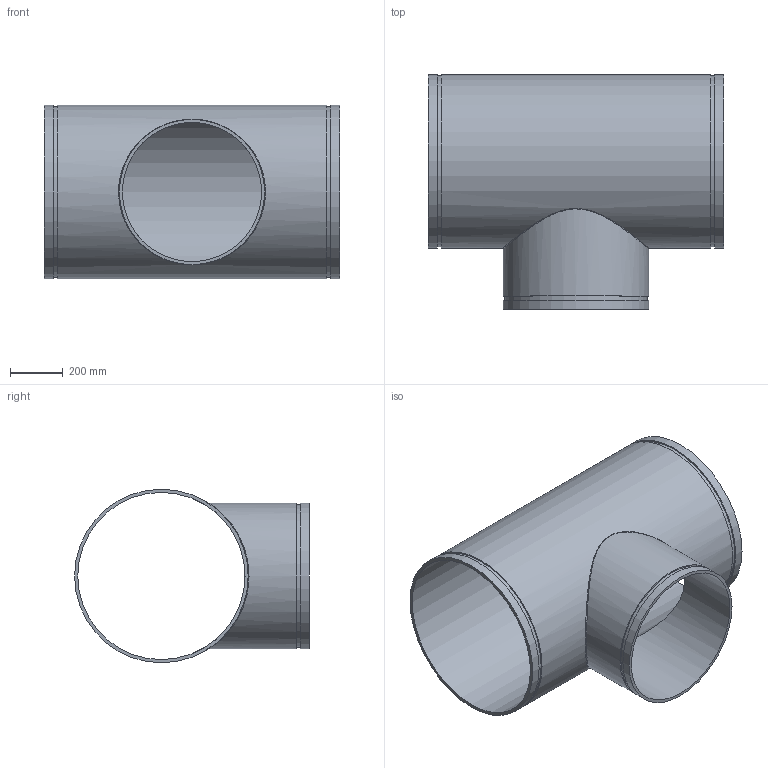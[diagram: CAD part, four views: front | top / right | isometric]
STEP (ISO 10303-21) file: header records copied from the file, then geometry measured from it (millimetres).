
FILE_DESCRIPTION(/* description */ ('VIC REDUCING TEE No 25-C','CAx-IF Rec.Pracs.---Representation and Presentation of Product Manufacturing Information (PMI)---4.0---2014-10-13'),/* implementation_level */ '2;1');
FILE_NAME(/* name */ 'C:\Users\Vjadhav\AppData\Roaming\Autodesk\ApplicationPlugins\Back Up\Victaulic_AWWA_Tee Reducing_No 25-C (DRG)\Victaulic_AWWA_Tee Reducing_No 25-C (DRG)_24.0x20.0 (600x500).stp',/* time_stamp */ '2020-08-18T18:19:05+06:00',/* author */ ('CORINNE GRAY'),/* organization */ ('Victaulic'),/* preprocessor_version */ 'ST-DEVELOPER v17.2',/* originating_system */ 'Autodesk Inventor 2019',/* authorisation */ '');
FILE_SCHEMA (('AP242_MANAGED_MODEL_BASED_3D_ENGINEERING_MIM_LF { 1 0 10303 442 1 1 4 }'));
Length unit declared in the file: inch
Products named in the file (1): 25C-24.0x20.0
Bounding box: 1117.6 x 886.46 x 655.32 mm (x, y, z)
Volume: 29330926 mm3; surface area: 5156524.6 mm2
Topology: 1 solids, 1 shells, 20 faces, 44 edges, 33 vertices
Faces by surface type: cylinder 10, plane 9, bspline 1
Full cylindrical faces by diameter (mm): 525.78 x1, 538.963 x1, 548.64 x2, 631.444 x1, 645.312 x2, 655.32 x3
Entity records: 1192 total; most frequent: CARTESIAN_POINT 568, DIRECTION 135, ORIENTED_EDGE 90, AXIS2_PLACEMENT_3D 62, EDGE_CURVE 45, VERTEX_POINT 34, EDGE_LOOP 31, CIRCLE 29
